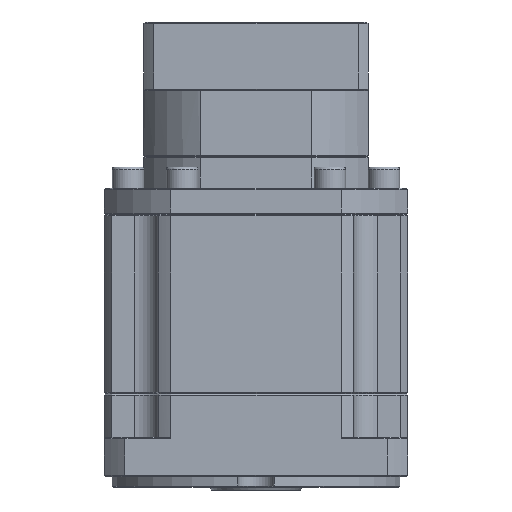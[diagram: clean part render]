
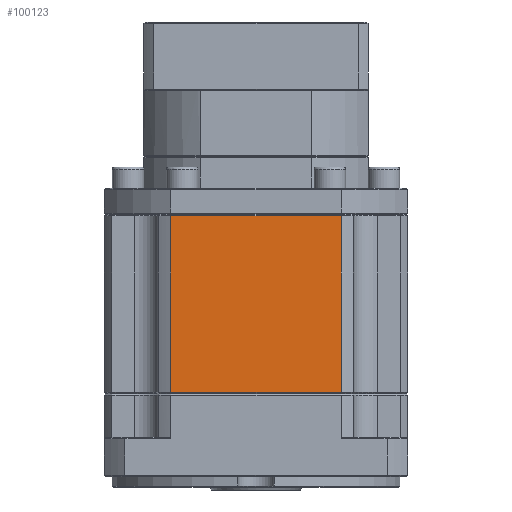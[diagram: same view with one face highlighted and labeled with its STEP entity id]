
A CAD part, left-side view. The second image highlights one B-rep face of the part: STEP entity #100123.
In plain terms, the highlighted planar face has unit normal (-1, 0, 0).
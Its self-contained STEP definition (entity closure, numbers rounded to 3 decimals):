
#2184 = PLANE ( 'NONE',  #64867 ) ;
#4552 = CARTESIAN_POINT ( 'NONE',  ( -103.176, 23.503, 199.502 ) ) ;
#14854 = VERTEX_POINT ( 'NONE', #125524 ) ;
#15440 = ORIENTED_EDGE ( 'NONE', *, *, #77308, .F. ) ;
#17185 = ORIENTED_EDGE ( 'NONE', *, *, #81085, .F. ) ;
#17957 = EDGE_LOOP ( 'NONE', ( #15440, #57818, #22448, #17185 ) ) ;
#18299 = LINE ( 'NONE', #113441, #19877 ) ;
#19877 = VECTOR ( 'NONE', #83025, 1000. ) ;
#22448 = ORIENTED_EDGE ( 'NONE', *, *, #118450, .F. ) ;
#25708 = VECTOR ( 'NONE', #86725, 1000. ) ;
#41764 = LINE ( 'NONE', #56058, #60867 ) ;
#48651 = VERTEX_POINT ( 'NONE', #104856 ) ;
#52828 = CARTESIAN_POINT ( 'NONE',  ( -103.176, -41.297, 199.502 ) ) ;
#53832 = DIRECTION ( 'NONE',  ( 0., 1., 0. ) ) ;
#56058 = CARTESIAN_POINT ( 'NONE',  ( -103.176, -66.397, 132.502 ) ) ;
#57818 = ORIENTED_EDGE ( 'NONE', *, *, #61663, .F. ) ;
#59470 = DIRECTION ( 'NONE',  ( 0., -1., 0. ) ) ;
#60867 = VECTOR ( 'NONE', #127657, 1000. ) ;
#60928 = FACE_OUTER_BOUND ( 'NONE', #17957, .T. ) ;
#61663 = EDGE_CURVE ( 'NONE', #75123, #14854, #18299, .T. ) ;
#64867 = AXIS2_PLACEMENT_3D ( 'NONE', #84310, #125902, #53832 ) ;
#75123 = VERTEX_POINT ( 'NONE', #52828 ) ;
#77308 = EDGE_CURVE ( 'NONE', #14854, #48651, #41764, .T. ) ;
#81085 = EDGE_CURVE ( 'NONE', #48651, #87712, #131263, .T. ) ;
#83025 = DIRECTION ( 'NONE',  ( 0., 0., -1. ) ) ;
#84310 = CARTESIAN_POINT ( 'NONE',  ( -103.176, -66.397, 200.002 ) ) ;
#86725 = DIRECTION ( 'NONE',  ( 0., 0., 1. ) ) ;
#87712 = VERTEX_POINT ( 'NONE', #4552 ) ;
#95993 = VECTOR ( 'NONE', #59470, 1000. ) ;
#100123 = ADVANCED_FACE ( 'NONE', ( #60928 ), #2184, .F. ) ;
#104856 = CARTESIAN_POINT ( 'NONE',  ( -103.176, 23.503, 132.502 ) ) ;
#113441 = CARTESIAN_POINT ( 'NONE',  ( -103.176, -41.297, 200.002 ) ) ;
#115832 = CARTESIAN_POINT ( 'NONE',  ( -103.176, 23.503, 200.002 ) ) ;
#118450 = EDGE_CURVE ( 'NONE', #87712, #75123, #123234, .T. ) ;
#123234 = LINE ( 'NONE', #130576, #95993 ) ;
#125524 = CARTESIAN_POINT ( 'NONE',  ( -103.176, -41.297, 132.502 ) ) ;
#125902 = DIRECTION ( 'NONE',  ( 1., 0., 0. ) ) ;
#127657 = DIRECTION ( 'NONE',  ( 0., 1., 0. ) ) ;
#130576 = CARTESIAN_POINT ( 'NONE',  ( -103.176, -8.897, 199.502 ) ) ;
#131263 = LINE ( 'NONE', #115832, #25708 ) ;
